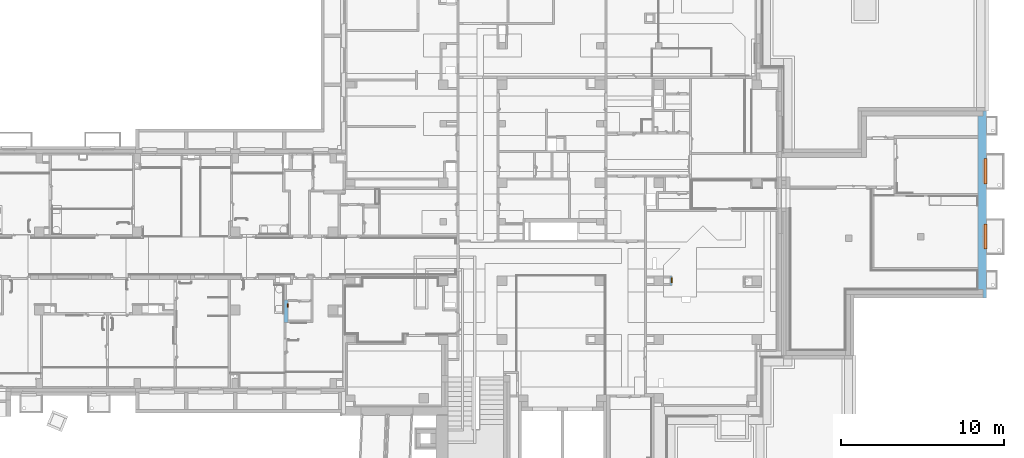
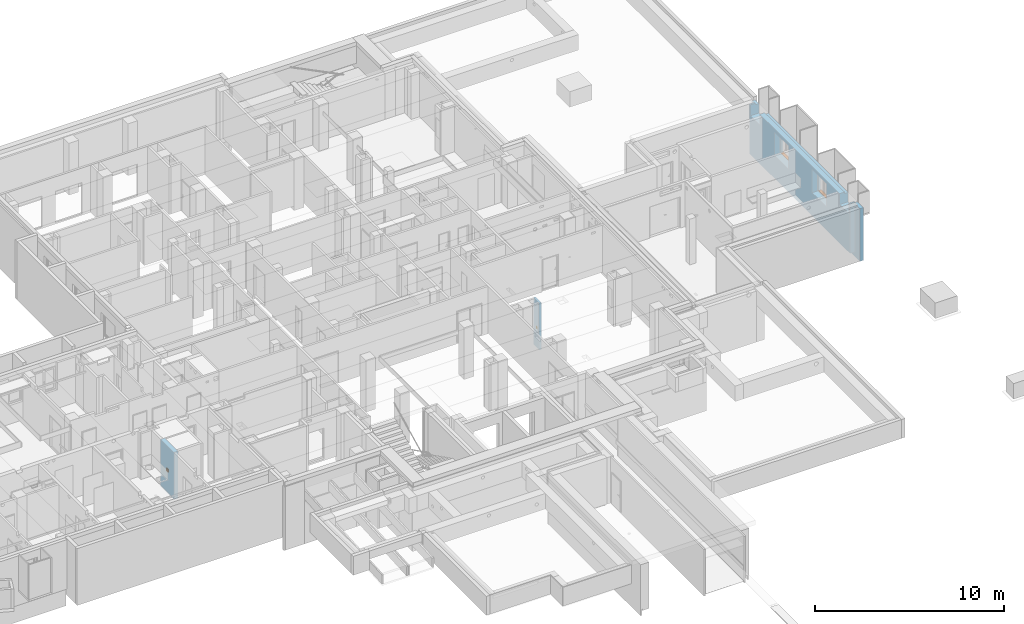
# One storey, part 74 of 84: 3 proxies, 1 window, 6 openings, plus 3 elements that do not belong to this part.
"""IFC4 building model written with IfcOpenShell, lengths in metres."""

import ifcopenshell
import ifcopenshell.guid

model = None  # the IFC model being written
_history = None  # IfcOwnerHistory: only IFC2X3 demands one
_inside = {}  # id of a spatial element -> (the spatial element, [elements in it])
_under = {}  # id of a project, library or spatial element -> (it, [spatial elements below it])
_declared = {}  # id of a project -> (the project, [libraries it declares])
_typed = {}  # id of a type object -> (the type object, [elements of that type])
_made_of = {}  # id of a material, layer set ... -> (it, [elements and type objects made of it])


def new_model(schema):
    """Start an empty IFC model of exactly this schema.

    Asked for "IFC4X3", IfcOpenShell would pick the latest addendum, in which some entities
    have other attributes; the version numbers below select the first issue.
    IFC2X3 requires an IfcOwnerHistory on every rooted entity: one is made here for all.
    """
    global model, _history
    if schema == "IFC4X3":
        model = ifcopenshell.file(schema_version=(4, 3, 0, 0))
    else:
        model = ifcopenshell.file(schema=schema)
    _inside.clear()
    _under.clear()
    _declared.clear()
    _typed.clear()
    _made_of.clear()
    _history = None
    if model.schema == "IFC2X3":
        org = make("IfcOrganization", Name="unknown")
        user = make(
            "IfcPersonAndOrganization",
            ThePerson=make("IfcPerson", FamilyName="unknown"),
            TheOrganization=org,
        )
        app = make(
            "IfcApplication",
            ApplicationDeveloper=org,
            Version="unknown",
            ApplicationFullName="unknown",
            ApplicationIdentifier="unknown",
        )
        _history = make(
            "IfcOwnerHistory",
            OwningUser=user,
            OwningApplication=app,
            ChangeAction="ADDED",
            CreationDate=0,
        )
    return model


def make(cls, **values):
    """One entity of the class cls with the attributes given. An attribute that is None is left unset."""
    return model.create_entity(
        cls, **{name: value for name, value in values.items() if value is not None}
    )


def entity(cls, *values):
    """Any entity or typed value of the class cls, its attributes in the order of the schema. None: left unset."""
    e = model.create_entity(cls)
    for i, value in enumerate(values):
        if value is not None:
            e[i] = value
    return e


def rooted(cls, **values):
    """An entity with a GlobalId (a new one), such as an element, a storey or a relation."""
    return make(cls, GlobalId=ifcopenshell.guid.new(), OwnerHistory=_history, **values)


def si_unit(unit_type, name, prefix=None):
    """IfcSIUnit, for example si_unit("LENGTHUNIT", "METRE", prefix="MILLI")."""
    return make("IfcSIUnit", UnitType=unit_type, Prefix=prefix, Name=name)


def converted_unit(unit_type, name, factor, base, dimensions=None, offset=None):
    """IfcConversionBasedUnit, such as the inch: factor (a typed value) times the base unit."""
    return make(
        "IfcConversionBasedUnit"
        if offset is None
        else "IfcConversionBasedUnitWithOffset",
        ConversionOffset=offset,
        Dimensions=None
        if dimensions is None
        else entity("IfcDimensionalExponents", *dimensions),
        UnitType=unit_type,
        Name=name,
        ConversionFactor=make(
            "IfcMeasureWithUnit", ValueComponent=factor, UnitComponent=base
        ),
    )


def derived_unit(unit_type, elements):
    """IfcDerivedUnit: a product of units, each with its exponent."""
    return make(
        "IfcDerivedUnit",
        Elements=[
            make("IfcDerivedUnitElement", Unit=unit, Exponent=power)
            for unit, power in elements
        ],
        UnitType=unit_type,
    )


def assignment(units):
    """IfcUnitAssignment: the units of a project."""
    return None if units is None else make("IfcUnitAssignment", Units=units)


def point(xyz):
    """IfcCartesianPoint."""
    return None if xyz is None else make("IfcCartesianPoint", Coordinates=xyz)


def direction(xyz):
    """IfcDirection."""
    return None if xyz is None else make("IfcDirection", DirectionRatios=xyz)


def frame(location, z_axis=None, x_axis=None):
    """IfcAxis2Placement3D, a coordinate frame: its origin and axes. An axis left out is left unset."""
    return make(
        "IfcAxis2Placement3D",
        Location=point(location),
        Axis=direction(z_axis),
        RefDirection=direction(x_axis),
    )


def frame_2d(location, x_axis=None):
    """IfcAxis2Placement2D, a coordinate frame in the plane: its origin and x axis."""
    return make(
        "IfcAxis2Placement2D", Location=point(location), RefDirection=direction(x_axis)
    )


def origin():
    """The frame at (0, 0, 0) with its axes left unset."""
    return frame((0.0, 0.0, 0.0))


def origin_with_axes():
    """The frame at (0, 0, 0) with the z axis (0, 0, 1) and the x axis (1, 0, 0) written out."""
    return frame((0.0, 0.0, 0.0), z_axis=(0.0, 0.0, 1.0), x_axis=(1.0, 0.0, 0.0))


def place(relative_to, where):
    """IfcLocalPlacement: puts the frame where relative to a parent placement (None: the world)."""
    return make(
        "IfcLocalPlacement", PlacementRelTo=relative_to, RelativePlacement=where
    )


def context(
    kind, dimensions, precision=None, world=None, true_north=None, identifier=None
):
    """IfcGeometricRepresentationContext, for example the 3D "Model" context."""
    return make(
        "IfcGeometricRepresentationContext",
        ContextIdentifier=identifier,
        ContextType=kind,
        CoordinateSpaceDimension=dimensions,
        Precision=precision,
        WorldCoordinateSystem=world,
        TrueNorth=true_north,
    )


def subcontext(parent, identifier, kind, view, scale=None):
    """IfcGeometricRepresentationSubContext, for example "Body" below "Model"."""
    return make(
        "IfcGeometricRepresentationSubContext",
        ContextIdentifier=identifier,
        ContextType=kind,
        ParentContext=parent,
        TargetScale=scale,
        TargetView=view,
    )


def project(units=None, contexts=None):
    """IfcProject with its units and contexts."""
    return rooted(
        "IfcProject",
        Name="project",
        RepresentationContexts=contexts,
        UnitsInContext=assignment(units),
    )


def spatial(cls, under=None, at=None, **own):
    """A site, building, storey or space (cls), placed at a placement, below another one or the project."""
    s = rooted(cls, ObjectPlacement=at, **own)
    if under is not None:
        _under.setdefault(under.id(), (under, []))[1].append(s)
    return s


def polyline(points):
    """IfcPolyline through the points."""
    return make("IfcPolyline", Points=[point(p) for p in points])


def profile(cls, at=None, kind="AREA", **sizes):
    """A parametric profile (cls). Its sizes go by their IFC names, for example OverallWidth=200.0."""
    return make(cls, ProfileType=kind, Position=at, **sizes)


def rectangle(**sizes):
    """IfcRectangleProfileDef."""
    return profile("IfcRectangleProfileDef", **sizes)


def outline(outer, holes=None, kind="AREA"):
    """IfcArbitraryClosedProfileDef: a profile drawn as a closed curve; with holes, ...WithVoids."""
    if holes is None:
        return make("IfcArbitraryClosedProfileDef", ProfileType=kind, OuterCurve=outer)
    return make(
        "IfcArbitraryProfileDefWithVoids",
        ProfileType=kind,
        OuterCurve=outer,
        InnerCurves=holes,
    )


def extrude(swept, where, along, depth):
    """IfcExtrudedAreaSolid: the profile swept, set in the frame where, extruded along a direction by depth."""
    return make(
        "IfcExtrudedAreaSolid",
        SweptArea=swept,
        Position=where,
        ExtrudedDirection=direction(along),
        Depth=depth,
    )


def clip(a, b, op="DIFFERENCE"):
    """IfcBooleanClippingResult: the solid a cut by the half space b."""
    return make(
        "IfcBooleanClippingResult", Operator=op, FirstOperand=a, SecondOperand=b
    )


def bounded_halfspace(plane, agree, where, boundary):
    """IfcPolygonalBoundedHalfSpace: a half space limited to a polygon's prism."""
    return make(
        "IfcPolygonalBoundedHalfSpace",
        BaseSurface=make("IfcPlane", Position=plane),
        AgreementFlag=agree,
        Position=where,
        PolygonalBoundary=boundary,
    )


def faces_of(points, faces, orient=None, outer=None):
    """IfcFace entities. A face is a list of loops; a loop is a list of indices into points, from 0.

    orient and outer hold one flag for each loop. By default every Orientation is true, the
    first loop of a face is its IfcFaceOuterBound and the others are IfcFaceBound.
    """
    made = []
    for i, loops in enumerate(faces):
        bounds = []
        for j, loop in enumerate(loops):
            is_outer = j == 0 if outer is None else outer[i][j]
            bounds.append(
                make(
                    "IfcFaceOuterBound" if is_outer else "IfcFaceBound",
                    Bound=make("IfcPolyLoop", Polygon=[points[k] for k in loop]),
                    Orientation=True if orient is None else orient[i][j],
                )
            )
        made.append(make("IfcFace", Bounds=bounds))
    return made


def faceted_brep(points, faces, orient=None, outer=None, voids=None):
    """IfcFacetedBrep: a solid bounded by flat faces; with voids (closed shells), ...WithVoids."""
    shared = [point(p) for p in points]
    hull = make("IfcClosedShell", CfsFaces=faces_of(shared, faces, orient, outer))
    if voids is None:
        return make("IfcFacetedBrep", Outer=hull)
    return make(
        "IfcFacetedBrepWithVoids",
        Outer=hull,
        Voids=[
            make(cls, CfsFaces=faces_of(shared, fs, o, b)) for cls, fs, o, b in voids
        ],
    )


def shape(context_of_items, identifier, shape_type, items):
    """IfcShapeRepresentation: the items that make up one representation, for example the "Body"."""
    return make(
        "IfcShapeRepresentation",
        ContextOfItems=context_of_items,
        RepresentationIdentifier=identifier,
        RepresentationType=shape_type,
        Items=items,
    )


def source(mapping_origin, context_of_items, identifier, shape_type, items):
    """IfcRepresentationMap: a shape defined once, which mapped items show again and again."""
    return make(
        "IfcRepresentationMap",
        MappingOrigin=mapping_origin,
        MappedRepresentation=shape(context_of_items, identifier, shape_type, items),
    )


def transform(
    local_origin,
    x_axis=None,
    y_axis=None,
    z_axis=None,
    scale=None,
    scale2=None,
    scale3=None,
    uniform=True,
):
    """IfcCartesianTransformationOperator3D, or its non-uniform kind. x_axis, y_axis, z_axis: its Axis1, 2, 3."""
    if uniform:
        return make(
            "IfcCartesianTransformationOperator3D",
            Axis1=direction(x_axis),
            Axis2=direction(y_axis),
            LocalOrigin=point(local_origin),
            Scale=scale,
            Axis3=direction(z_axis),
        )
    return make(
        "IfcCartesianTransformationOperator3DnonUniform",
        Axis1=direction(x_axis),
        Axis2=direction(y_axis),
        LocalOrigin=point(local_origin),
        Scale=scale,
        Axis3=direction(z_axis),
        Scale2=scale2,
        Scale3=scale3,
    )


def mapped(mapping_source, mapping_target):
    """IfcMappedItem: shows the shape of a source again, moved by a transform."""
    return make(
        "IfcMappedItem", MappingSource=mapping_source, MappingTarget=mapping_target
    )


def material(Name=None, Category=None):
    """IfcMaterial."""
    return make("IfcMaterial", Name=Name, Category=Category)


def layer(
    of_material, thickness, ventilated=None, Name=None, Category=None, Priority=None
):
    """IfcMaterialLayer: one layer of a wall or slab, of a material (None: an air gap)."""
    return make(
        "IfcMaterialLayer",
        Material=of_material,
        LayerThickness=thickness,
        IsVentilated=ventilated,
        Name=Name,
        Category=Category,
        Priority=Priority,
    )


def layer_set(layers, Name=None):
    """IfcMaterialLayerSet."""
    return make("IfcMaterialLayerSet", MaterialLayers=layers, LayerSetName=Name)


def layer_usage(for_layer_set, set_direction, sense, offset, extent=None):
    """IfcMaterialLayerSetUsage: how a layer set lies in its element."""
    return make(
        "IfcMaterialLayerSetUsage",
        ForLayerSet=for_layer_set,
        LayerSetDirection=set_direction,
        DirectionSense=sense,
        OffsetFromReferenceLine=offset,
        ReferenceExtent=extent,
    )


def made_of(thing, what):
    """Note that an element or type object is made of a material, layer set ...; save() writes the relation."""
    if what is not None:
        _made_of.setdefault(what.id(), (what, []))[1].append(thing)
    return thing


def element(
    cls,
    number,
    at=None,
    inside=None,
    cuts=None,
    type_object=None,
    material=None,
    context=None,
    identifier="Body",
    shape_type=None,
    held_by="IfcProductDefinitionShape",
    body=None,
    shapes=None,
    **own,
):
    """One element of the class cls, such as IfcWall. Its Tag is "e" and its number.

    at: its placement. inside: the storey or other place that contains it. cuts: it is an
    opening in that element (IfcRelVoidsElement). A single representation is given by context,
    identifier, shape_type and body (its items); several are given by shapes. held_by: the class
    of the entity that holds the representations. save() writes the other relations.
    """
    e = rooted(cls, Tag="e%d" % number, ObjectPlacement=at, **own)
    if body is not None:
        shapes = [shape(context, identifier, shape_type, body)]
    if shapes is not None:
        e.Representation = make(held_by, Representations=shapes)
    if inside is not None:
        _inside.setdefault(inside.id(), (inside, []))[1].append(e)
    if cuts is not None:
        rooted(
            "IfcRelVoidsElement", RelatingBuildingElement=cuts, RelatedOpeningElement=e
        )
    if type_object is not None:
        _typed.setdefault(type_object.id(), (type_object, []))[1].append(e)
    return made_of(e, material)


def fill(opening, filler):
    """IfcRelFillsElement: the door or window that sits in an opening."""
    return rooted(
        "IfcRelFillsElement",
        RelatingOpeningElement=opening,
        RelatedBuildingElement=filler,
    )


def aggregate(whole, parts):
    """IfcRelAggregates: a whole, such as a stair, and the parts it consists of."""
    return rooted("IfcRelAggregates", RelatingObject=whole, RelatedObjects=parts)


def save(model, path):
    """Write the relations noted so far, then the file.

    IfcRelAggregates (storeys below a building ...), IfcRelContainedInSpatialStructure (elements
    in a storey), IfcRelDefinesByType, IfcRelAssociatesMaterial and IfcRelDeclares: one each for
    every whole, place, type object, material and project.
    """
    for whole, parts in _under.values():
        aggregate(whole, parts)
    for where, things in _inside.values():
        rooted(
            "IfcRelContainedInSpatialStructure",
            RelatedElements=things,
            RelatingStructure=where,
        )
    for kind, things in _typed.values():
        rooted("IfcRelDefinesByType", RelatedObjects=things, RelatingType=kind)
    for what, things in _made_of.values():
        rooted("IfcRelAssociatesMaterial", RelatedObjects=things, RelatingMaterial=what)
    for by, libraries in _declared.values():
        rooted("IfcRelDeclares", RelatingContext=by, RelatedDefinitions=libraries)
    model.write(path)


model = new_model("IFC4")

# Units and contexts
model_context = context("Model", 3, precision=1e-05, world=origin())
body_context = subcontext(model_context, "Body", "Model", "MODEL_VIEW")
ifc_project = project(units=[si_unit("LENGTHUNIT", "METRE"), si_unit("AREAUNIT", "SQUARE_METRE"), si_unit("VOLUMEUNIT", "CUBIC_METRE"), si_unit("MASSUNIT", "GRAM", prefix="KILO"), converted_unit("PLANEANGLEUNIT", "DEGREE", entity("IfcPlaneAngleMeasure", 0.0174532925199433), si_unit("PLANEANGLEUNIT", "RADIAN"), dimensions=[0, 0, 0, 0, 0, 0, 0]), derived_unit("THERMALTRANSMITTANCEUNIT", [(si_unit("POWERUNIT", "WATT"), 1), (si_unit("THERMODYNAMICTEMPERATUREUNIT", "KELVIN"), -1), (si_unit("LENGTHUNIT", "METRE"), -2)]), derived_unit("VOLUMETRICFLOWRATEUNIT", [(si_unit("LENGTHUNIT", "METRE"), 3), (converted_unit("TIMEUNIT", "hour", entity("IfcTimeMeasure", 3600.0), si_unit("TIMEUNIT", "SECOND"), dimensions=[0, 0, 1, 0, 0, 0, 0]), -1), (si_unit("LENGTHUNIT", "METRE"), -1)])], contexts=[model_context])

# Site, building, storey
site_placement = place(None, origin())
site = spatial("IfcSite", under=ifc_project, at=site_placement, Name="3. ASŘ", CompositionType="ELEMENT")
building_placement = place(site_placement, origin())
building = spatial("IfcBuilding", under=site, at=building_placement, Name="Pavilon C", CompositionType="ELEMENT")
storey_placement = place(building_placement, frame((0.0, 0.0, -3.3)))
storey = spatial("IfcBuildingStorey", under=building, at=storey_placement, Name="Půdorys 1.PP", CompositionType="ELEMENT", Elevation=-3.3)

# Wall, opening, window
ifc_material_1 = material(Name="ZDIVO Z CDm")
ifc_layer_1 = layer(ifc_material_1, 0.125)
ifc_layer_set_1 = layer_set([ifc_layer_1])
ifc_layer_usage_1 = layer_usage(ifc_layer_set_1, "AXIS2", "POSITIVE", 0.0)
wall_1_placement = place(storey_placement, frame((44.65, 7.49999999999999, -0.1), z_axis=(0.0, 0.0, 1.0), x_axis=(0.0, -1.0, 0.0)))
wall_1 = element("IfcWall", 1, at=wall_1_placement, inside=storey, material=ifc_layer_usage_1, Name="ZDIVO Z CDm", context=body_context, shape_type="SweptSolid", body=[
    extrude(rectangle(XDim=0.6, YDim=0.125, at=frame_2d((0.3, 0.0625), x_axis=(1.0, 0.0))), origin_with_axes(), (0.0, 0.0, 1.0), 3.05),
])
opening_1_placement = place(wall_1_placement, frame((0.425, 0.125, 1.1), z_axis=(0.0, -1.0, 0.0), x_axis=(0.0, 0.0, 1.0)))
opening_1 = element("IfcOpeningElement", 2, at=opening_1_placement, cuts=wall_1, Name="Okenní otvor", ObjectType="Opening", context=body_context, shape_type="SweptSolid", body=[
    extrude(outline(polyline([(0.0, 0.3), (0.3, 0.3), (0.3, 0.0), (0.0, 0.0), (0.0, 0.3)])), origin_with_axes(), (0.0, 0.0, 1.0), 0.125),
])
shared_shape_1 = source(origin_with_axes(), body_context, "Body", "Brep", [
    faceted_brep([(0.0, 0.06, 0.3), (0.0, 0.06, 4.91096680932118e-19), (0.02, 0.06, 4.91096680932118e-19), (0.02, 0.06, 0.3), (0.0, 0.01, 6.61433067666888e-18), (0.0, 0.01, 0.3), (0.02, 0.01, 0.3), (0.02, 0.01, 6.61433067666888e-18)], [[[0, 1, 2, 3]], [[4, 5, 6, 7]], [[1, 0, 5, 4]], [[2, 1, 4, 7]], [[3, 2, 7, 6]], [[0, 3, 6, 5]]], orient=[[False], [False], [False], [False], [False], [False]]),
    faceted_brep([(0.28, 0.06, 0.3), (0.28, 0.06, 4.91096680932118e-19), (0.3, 0.06, 4.91096680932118e-19), (0.3, 0.06, 0.3), (0.28, 0.01, 6.61433067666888e-18), (0.28, 0.01, 0.3), (0.3, 0.01, 0.3), (0.3, 0.01, 6.61433067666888e-18)], [[[0, 1, 2, 3]], [[4, 5, 6, 7]], [[1, 0, 5, 4]], [[2, 1, 4, 7]], [[3, 2, 7, 6]], [[0, 3, 6, 5]]], orient=[[False], [False], [False], [False], [False], [False]]),
    faceted_brep([(0.02, 0.06, 0.02), (0.02, 0.06, 4.91096680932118e-19), (0.28, 0.06, 4.91096680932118e-19), (0.28, 0.06, 0.02), (0.02, 0.01, 6.61433067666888e-18), (0.02, 0.01, 0.02), (0.28, 0.01, 0.02), (0.28, 0.01, 6.61433067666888e-18)], [[[0, 1, 2, 3]], [[4, 5, 6, 7]], [[1, 0, 5, 4]], [[2, 1, 4, 7]], [[3, 2, 7, 6]], [[0, 3, 6, 5]]], orient=[[False], [False], [False], [False], [False], [False]]),
    faceted_brep([(0.02, 0.06, 0.3), (0.02, 0.06, 0.28), (0.28, 0.06, 0.28), (0.28, 0.06, 0.3), (0.02, 0.01, 0.28), (0.02, 0.01, 0.3), (0.28, 0.01, 0.3), (0.28, 0.01, 0.28)], [[[0, 1, 2, 3]], [[4, 5, 6, 7]], [[1, 0, 5, 4]], [[2, 1, 4, 7]], [[3, 2, 7, 6]], [[0, 3, 6, 5]]], orient=[[False], [False], [False], [False], [False], [False]]),
    faceted_brep([(0.02, 0.01, 0.28), (0.02, 0.01, 0.02), (0.28, 0.01, 0.02), (0.28, 0.01, 0.28), (0.02, 0.0, 0.02), (0.02, 3.19744231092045e-17, 0.28), (0.28, 3.19744231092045e-17, 0.28), (0.28, 0.0, 0.02)], [[[0, 1, 2, 3]], [[4, 5, 6, 7]], [[1, 0, 5, 4]], [[2, 1, 4, 7]], [[3, 2, 7, 6]], [[0, 3, 6, 5]]], orient=[[False], [False], [False], [False], [False], [False]]),
])
window_placement = place(opening_1_placement, frame((0.0, -1.81898940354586e-15, -0.00999999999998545), z_axis=(1.0, 0.0, 0.0), x_axis=(0.0, 1.0, -1.22464679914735e-16)))
window = element("IfcWindow", 3, at=window_placement, inside=storey, Name="O01", OverallHeight=0.3, OverallWidth=0.3, PartitioningType="USERDEFINED", PredefinedType="WINDOW", context=body_context, shape_type="MappedRepresentation", body=[
    mapped(shared_shape_1, transform((0.0, 0.0, 0.0), x_axis=(1.0, 0.0, 0.0), y_axis=(0.0, 1.0, 0.0), z_axis=(0.0, 0.0, 1.0), scale=1.0)),
])
fill(opening_1, window)

# Wall, openings, proxies
ifc_material_2 = material(Name="ZELEZOBETONOVÁ KCE")
ifc_layer_2 = layer(ifc_material_2, 0.3)
ifc_material_3 = material(Name="PERIMETR")
ifc_layer_3 = layer(ifc_material_3, 0.22)
ifc_layer_set_2 = layer_set([ifc_layer_2, ifc_layer_3])
ifc_layer_usage_2 = layer_usage(ifc_layer_set_2, "AXIS2", "POSITIVE", 0.0)
wall_2_placement = place(storey_placement, frame((63.5, 17.3, -0.6), z_axis=(0.0, 0.0, 1.0), x_axis=(0.0, -1.0, 0.0)))
wall_2 = element("IfcWall", 4, at=wall_2_placement, inside=storey, material=ifc_layer_usage_2, Name="ZELEZOBETONOVÁ KCE", context=body_context, shape_type="Clipping", body=[
    clip(clip(extrude(outline(polyline([(-11.17, 0.0), (-0.520000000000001, 0.0), (-0.520000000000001, 0.3), (0.0, 0.3), (0.0, 0.52), (-11.47, 0.52), (-11.47, 0.3), (-11.17, 0.3), (-11.17, 0.0)])), frame((11.17, 0.0, 0.0), z_axis=(0.0, 0.0, 1.0), x_axis=(1.0, 0.0, 0.0)), (0.0, 0.0, 1.0), 3.5), bounded_halfspace(frame((5.325, 0.15, 0.3), z_axis=(0.0, 0.0, 1.0), x_axis=(0.0, -1.0, 0.0)), True, origin_with_axes(), polyline([(0.0, 0.3), (0.0, 0.0), (10.65, 0.0), (10.65, 0.3), (0.0, 0.3)]))), bounded_halfspace(frame((5.39833333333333, 0.373333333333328, 3.4), z_axis=(0.0, 0.0, -1.0), x_axis=(1.0, -1.39922261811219e-14, 0.0)), True, origin_with_axes(), polyline([(10.65, 0.3), (11.17, 0.299999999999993), (11.17, 0.519999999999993), (-0.3, 0.519999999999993), (-0.3, 0.299999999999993), (0.0, 0.3), (10.65, 0.3)]))),
])
opening_2_placement = place(wall_2_placement, frame((8.15, 0.3, 1.8), z_axis=(0.0, -1.0, 0.0), x_axis=(0.0, 0.0, 1.0)))
opening_2 = element("IfcOpeningElement", 5, at=opening_2_placement, cuts=wall_2, Name="Okenní otvor", ObjectType="Opening", context=body_context, shape_type="SweptSolid", body=[
    extrude(outline(polyline([(0.0, 1.5), (1.5, 1.5), (1.5, 0.0), (0.0, 0.0), (0.0, 1.5)])), origin_with_axes(), (0.0, 0.0, 1.0), 0.3),
    extrude(outline(polyline([(0.0, 1.5), (1.5, 1.5), (1.5, 0.0), (0.0, 0.0), (0.0, 1.5)])), frame((0.0, 0.0, -0.22), z_axis=(0.0, 0.0, 1.0), x_axis=(1.0, 0.0, 0.0)), (0.0, 0.0, 1.0), 0.22),
])
opening_3_placement = place(wall_2_placement, frame((4.15, 0.3, 1.8), z_axis=(0.0, -1.0, 0.0), x_axis=(0.0, 0.0, 1.0)))
opening_3 = element("IfcOpeningElement", 6, at=opening_3_placement, cuts=wall_2, Name="Okenní otvor", ObjectType="Opening", context=body_context, shape_type="SweptSolid", body=[
    extrude(outline(polyline([(0.0, 1.5), (1.5, 1.5), (1.5, 0.0), (0.0, 0.0), (0.0, 1.5)])), origin_with_axes(), (0.0, 0.0, 1.0), 0.3),
    extrude(outline(polyline([(0.0, 1.5), (1.5, 1.5), (1.5, 0.0), (0.0, 0.0), (0.0, 1.5)])), frame((0.0, 0.0, -0.22), z_axis=(0.0, 0.0, 1.0), x_axis=(1.0, 0.0, 0.0)), (0.0, 0.0, 1.0), 0.22),
])
opening_4_placement = place(wall_2_placement, frame((10.55, 0.52, 2.8), z_axis=(0.0, -1.0, 0.0), x_axis=(0.0, 0.0, 1.0)))
element("IfcOpeningElement", 7, at=opening_4_placement, cuts=wall_2, Name="VZT", ObjectType="Opening", context=body_context, shape_type="SweptSolid", body=[
    extrude(outline(polyline([(0.0, 1.0), (0.7, 1.0), (0.7, 0.0), (0.0, 0.0), (0.0, 1.0)])), origin_with_axes(), (0.0, 0.0, 1.0), 0.22),
    extrude(outline(polyline([(0.0, 1.0), (0.7, 1.0), (0.7, 0.0), (0.0, 0.0), (0.0, 1.0)])), frame((0.0, 0.0, 0.22), z_axis=(0.0, 0.0, 1.0), x_axis=(1.0, 0.0, 0.0)), (0.0, 0.0, 1.0), 0.3),
])
opening_5_placement = place(wall_2_placement, frame((1.09999999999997, 0.52, 2.8), z_axis=(0.0, -1.0, 0.0), x_axis=(0.0, 0.0, 1.0)))
element("IfcOpeningElement", 8, at=opening_5_placement, cuts=wall_2, Name="VZT", ObjectType="Opening", context=body_context, shape_type="SweptSolid", body=[
    extrude(outline(polyline([(0.0, 0.999999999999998), (0.7, 0.999999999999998), (0.7, 0.0), (0.0, 0.0), (0.0, 0.999999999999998)])), origin_with_axes(), (0.0, 0.0, 1.0), 0.22),
    extrude(outline(polyline([(0.0, 0.999999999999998), (0.7, 0.999999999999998), (0.7, 0.0), (0.0, 0.0), (0.0, 0.999999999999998)])), frame((0.0, 0.0, 0.22), z_axis=(0.0, 0.0, 1.0), x_axis=(1.0, 0.0, 0.0)), (0.0, 0.0, 1.0), 0.3),
])
ifc_material_4 = material(Name="HLINÍKOVÝ PLECH ELOXOVANÝ")
shared_shape_2 = source(origin_with_axes(), body_context, "Body", "Brep", [
    faceted_brep([(-3.63797880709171e-15, -0.219999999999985, 0.0), (-3.63797880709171e-15, -0.0819999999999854, 0.0), (-3.63797880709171e-15, -0.0819999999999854, 0.005), (-3.63797880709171e-15, -0.219999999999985, 0.005), (1.5, -0.219999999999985, 0.0), (1.5, -0.219999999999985, 0.005), (1.5, -0.0819999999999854, 0.005), (1.5, -0.0819999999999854, 0.0), (-0.0200000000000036, -0.219999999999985, 0.0), (-0.0200000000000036, -0.254999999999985, 0.0), (1.52, -0.254999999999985, 0.0), (1.52, -0.219999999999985, 0.0), (1.52, -0.219999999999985, 0.005), (1.52, -0.259999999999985, 0.005), (-0.0200000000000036, -0.259999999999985, 0.005), (-0.0200000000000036, -0.219999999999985, 0.005), (-0.0200000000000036, -0.259999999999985, -0.025), (-0.0200000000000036, -0.254999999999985, -0.025), (1.52, -0.254999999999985, -0.025), (1.52, -0.259999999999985, -0.025)], [[[0, 1, 2, 3]], [[4, 5, 6, 7]], [[1, 0, 8, 9, 10, 11, 4, 7]], [[2, 1, 7, 6]], [[3, 2, 6, 5, 12, 13, 14, 15]], [[8, 15, 14, 16, 17, 9]], [[11, 10, 18, 19, 13, 12]], [[15, 8, 0, 3]], [[5, 4, 11, 12]], [[16, 14, 13, 19]], [[17, 16, 19, 18]], [[9, 17, 18, 10]]], orient=[[False], [False], [False], [False], [False], [False], [False], [False], [False], [False], [False], [False]]),
    faceted_brep([(-0.0200000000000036, -0.219999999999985, 0.0), (-0.0200000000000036, -0.0819999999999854, 0.0), (-0.0200000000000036, -0.0819999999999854, 0.005), (-0.0200000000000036, -0.219999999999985, 0.005), (-3.63797880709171e-15, -0.219999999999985, 0.0), (-3.63797880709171e-15, -0.219999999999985, 0.005), (-3.63797880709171e-15, -0.0819999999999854, 0.005), (-3.63797880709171e-15, -0.0819999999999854, 0.0)], [[[0, 1, 2, 3]], [[4, 5, 6, 7]], [[1, 0, 4, 7]], [[2, 1, 7, 6]], [[3, 2, 6, 5]], [[0, 3, 5, 4]]], orient=[[False], [False], [False], [False], [False], [False]]),
    faceted_brep([(1.5, -0.219999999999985, 0.0), (1.5, -0.0819999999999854, 0.0), (1.5, -0.0819999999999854, 0.005), (1.5, -0.219999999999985, 0.005), (1.52, -0.219999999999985, 0.0), (1.52, -0.219999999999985, 0.005), (1.52, -0.0819999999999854, 0.005), (1.52, -0.0819999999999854, 0.0)], [[[0, 1, 2, 3]], [[4, 5, 6, 7]], [[1, 0, 4, 7]], [[2, 1, 7, 6]], [[3, 2, 6, 5]], [[0, 3, 5, 4]]], orient=[[False], [False], [False], [False], [False], [False]]),
])
proxy_1_placement = place(opening_2_placement, frame((0.0, 0.0, 0.0), z_axis=(1.0, 0.0, 0.0), x_axis=(0.0, 1.0, 0.0)))
proxy_1 = element("IfcBuildingElementProxy", 9, at=proxy_1_placement, inside=storey, material=ifc_material_4, Name="Parapet vnější", context=body_context, shape_type="MappedRepresentation", body=[
    mapped(shared_shape_2, transform((0.0, 0.0, 0.0), x_axis=(1.0, 0.0, 0.0), y_axis=(0.0, 1.0, 0.0), z_axis=(0.0, 0.0, 1.0), scale=1.0)),
])
fill(opening_2, proxy_1)
ifc_material_5 = material(Name="HLINÍKOVÝ PLECH ELOXOVANÝ")
shared_shape_3 = source(origin_with_axes(), body_context, "Body", "Brep", [
    faceted_brep([(-3.63797880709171e-15, -0.219999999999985, 0.0), (-3.63797880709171e-15, -0.0819999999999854, 0.0), (-3.63797880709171e-15, -0.0819999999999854, 0.005), (-3.63797880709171e-15, -0.219999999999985, 0.005), (1.5, -0.219999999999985, 0.0), (1.5, -0.219999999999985, 0.005), (1.5, -0.0819999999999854, 0.005), (1.5, -0.0819999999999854, 0.0), (-0.0200000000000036, -0.219999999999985, 0.0), (-0.0200000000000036, -0.254999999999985, 0.0), (1.52, -0.254999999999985, 0.0), (1.52, -0.219999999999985, 0.0), (1.52, -0.219999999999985, 0.005), (1.52, -0.259999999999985, 0.005), (-0.0200000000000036, -0.259999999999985, 0.005), (-0.0200000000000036, -0.219999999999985, 0.005), (-0.0200000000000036, -0.259999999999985, -0.025), (-0.0200000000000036, -0.254999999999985, -0.025), (1.52, -0.254999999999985, -0.025), (1.52, -0.259999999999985, -0.025)], [[[0, 1, 2, 3]], [[4, 5, 6, 7]], [[1, 0, 8, 9, 10, 11, 4, 7]], [[2, 1, 7, 6]], [[3, 2, 6, 5, 12, 13, 14, 15]], [[8, 15, 14, 16, 17, 9]], [[11, 10, 18, 19, 13, 12]], [[15, 8, 0, 3]], [[5, 4, 11, 12]], [[16, 14, 13, 19]], [[17, 16, 19, 18]], [[9, 17, 18, 10]]], orient=[[False], [False], [False], [False], [False], [False], [False], [False], [False], [False], [False], [False]]),
    faceted_brep([(-0.0200000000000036, -0.219999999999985, 0.0), (-0.0200000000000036, -0.0819999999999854, 0.0), (-0.0200000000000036, -0.0819999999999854, 0.005), (-0.0200000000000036, -0.219999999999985, 0.005), (-3.63797880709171e-15, -0.219999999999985, 0.0), (-3.63797880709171e-15, -0.219999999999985, 0.005), (-3.63797880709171e-15, -0.0819999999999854, 0.005), (-3.63797880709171e-15, -0.0819999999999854, 0.0)], [[[0, 1, 2, 3]], [[4, 5, 6, 7]], [[1, 0, 4, 7]], [[2, 1, 7, 6]], [[3, 2, 6, 5]], [[0, 3, 5, 4]]], orient=[[False], [False], [False], [False], [False], [False]]),
    faceted_brep([(1.5, -0.219999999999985, 0.0), (1.5, -0.0819999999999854, 0.0), (1.5, -0.0819999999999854, 0.005), (1.5, -0.219999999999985, 0.005), (1.52, -0.219999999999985, 0.0), (1.52, -0.219999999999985, 0.005), (1.52, -0.0819999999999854, 0.005), (1.52, -0.0819999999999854, 0.0)], [[[0, 1, 2, 3]], [[4, 5, 6, 7]], [[1, 0, 4, 7]], [[2, 1, 7, 6]], [[3, 2, 6, 5]], [[0, 3, 5, 4]]], orient=[[False], [False], [False], [False], [False], [False]]),
])
proxy_2_placement = place(opening_3_placement, frame((0.0, 0.0, 0.0), z_axis=(1.0, 0.0, 0.0), x_axis=(0.0, 1.0, 0.0)))
proxy_2 = element("IfcBuildingElementProxy", 10, at=proxy_2_placement, inside=storey, material=ifc_material_5, Name="Parapet vnější", context=body_context, shape_type="MappedRepresentation", body=[
    mapped(shared_shape_3, transform((0.0, 0.0, 0.0), x_axis=(1.0, 0.0, 0.0), y_axis=(0.0, 1.0, 0.0), z_axis=(0.0, 0.0, 1.0), scale=1.0)),
])
fill(opening_3, proxy_2)

# Wall, opening, proxy
ifc_material_6 = material(Name="SDK - 2 KCE + DVOJITÉ OPLÁŠTĚNÍ")
ifc_layer_4 = layer(ifc_material_6, 0.25)
ifc_layer_set_3 = layer_set([ifc_layer_4])
ifc_layer_usage_3 = layer_usage(ifc_layer_set_3, "AXIS2", "POSITIVE", 0.0)
wall_3_placement = place(storey_placement, frame((21.25, 4.625, -0.1), z_axis=(0.0, 0.0, 1.0), x_axis=(0.0, 1.0, 0.0)))
wall_3 = element("IfcWall", 11, at=wall_3_placement, inside=storey, material=ifc_layer_usage_3, Name="SDK - 2 KCE + DVOJITÉ OPLÁŠTĚNÍ", context=body_context, shape_type="SweptSolid", body=[
    extrude(rectangle(XDim=1.4, YDim=0.25, at=frame_2d((0.7, 0.125), x_axis=(1.0, 0.0))), origin_with_axes(), (0.0, 0.0, 1.0), 3.05),
])
opening_6_placement = place(wall_3_placement, frame((0.96, 0.0, 1.1), z_axis=(0.0, 1.0, 0.0), x_axis=(0.0, 0.0, 1.0)))
opening_6 = element("IfcOpeningElement", 12, at=opening_6_placement, cuts=wall_3, Name="Stěnová nika", ObjectType="Opening", context=body_context, shape_type="SweptSolid", body=[
    extrude(outline(polyline([(0.0, 0.2), (0.2, 0.2), (0.2, 0.0), (0.0, 0.0), (0.0, 0.2)])), origin_with_axes(), (0.0, 0.0, 1.0), 0.05),
])
shared_shape_4 = source(origin_with_axes(), body_context, "Body", "Brep", [
    faceted_brep([(0.199999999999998, 0.0500000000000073, 0.2), (0.179999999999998, 0.0500000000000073, 0.2), (0.179999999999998, 0.0500000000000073, 0.0), (0.199999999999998, 0.0500000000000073, 0.0), (0.199999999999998, 7.27595761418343e-15, 0.0), (0.179999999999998, 7.27595761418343e-15, 0.0), (0.179999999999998, 7.27595761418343e-15, 0.2), (0.199999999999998, 7.27595761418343e-15, 0.2)], [[[0, 1, 2, 3]], [[4, 5, 6, 7]], [[3, 4, 7, 0]], [[2, 5, 4, 3]], [[1, 6, 5, 2]], [[0, 7, 6, 1]]], orient=[[False], [False], [False], [False], [False], [False]]),
    faceted_brep([(0.0199999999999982, 0.0500000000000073, 0.2), (-1.81898940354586e-15, 0.0500000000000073, 0.2), (-1.81898940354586e-15, 0.0500000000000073, 0.0), (0.0199999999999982, 0.0500000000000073, 0.0), (0.0199999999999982, 7.27595761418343e-15, 0.0), (-1.81898940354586e-15, 7.27595761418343e-15, 0.0), (-1.81898940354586e-15, 7.27595761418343e-15, 0.2), (0.0199999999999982, 7.27595761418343e-15, 0.2)], [[[0, 1, 2, 3]], [[4, 5, 6, 7]], [[3, 4, 7, 0]], [[2, 5, 4, 3]], [[1, 6, 5, 2]], [[0, 7, 6, 1]]], orient=[[False], [False], [False], [False], [False], [False]]),
    faceted_brep([(0.179999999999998, 0.0500000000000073, 0.02), (0.0199999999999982, 0.0500000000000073, 0.02), (0.0199999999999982, 0.0500000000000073, 0.0), (0.179999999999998, 0.0500000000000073, 0.0), (0.179999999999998, 7.27595761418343e-15, 0.0), (0.0199999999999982, 7.27595761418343e-15, 0.0), (0.0199999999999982, 7.27595761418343e-15, 0.02), (0.179999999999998, 7.27595761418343e-15, 0.02)], [[[0, 1, 2, 3]], [[4, 5, 6, 7]], [[3, 4, 7, 0]], [[2, 5, 4, 3]], [[1, 6, 5, 2]], [[0, 7, 6, 1]]], orient=[[False], [False], [False], [False], [False], [False]]),
    faceted_brep([(0.179999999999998, 0.0500000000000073, 0.2), (0.0199999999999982, 0.0500000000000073, 0.2), (0.0199999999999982, 0.0500000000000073, 0.18), (0.179999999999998, 0.0500000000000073, 0.18), (0.179999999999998, 7.27595761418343e-15, 0.18), (0.0199999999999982, 7.27595761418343e-15, 0.18), (0.0199999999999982, 7.27595761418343e-15, 0.2), (0.179999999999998, 7.27595761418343e-15, 0.2)], [[[0, 1, 2, 3]], [[4, 5, 6, 7]], [[3, 4, 7, 0]], [[2, 5, 4, 3]], [[1, 6, 5, 2]], [[0, 7, 6, 1]]], orient=[[False], [False], [False], [False], [False], [False]]),
    faceted_brep([(0.179999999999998, 7.27595761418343e-15, 0.18), (0.0199999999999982, 7.27595761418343e-15, 0.18), (0.0199999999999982, 7.27595761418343e-15, 0.02), (0.179999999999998, 7.27595761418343e-15, 0.02), (0.179999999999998, -0.00999999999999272, 0.02), (0.0199999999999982, -0.00999999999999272, 0.02), (0.0199999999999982, -0.00999999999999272, 0.18), (0.179999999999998, -0.00999999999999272, 0.18)], [[[0, 1, 2, 3]], [[4, 5, 6, 7]], [[3, 4, 7, 0]], [[2, 5, 4, 3]], [[1, 6, 5, 2]], [[0, 7, 6, 1]]], orient=[[False], [False], [False], [False], [False], [False]]),
])
proxy_3_placement = place(opening_6_placement, frame((0.0, 0.0, 0.0), z_axis=(1.0, 0.0, 0.0), x_axis=(0.0, 1.0, 0.0)))
proxy_3 = element("IfcBuildingElementProxy", 13, at=proxy_3_placement, inside=storey, context=body_context, shape_type="MappedRepresentation", body=[
    mapped(shared_shape_4, transform((0.0, 0.0, 0.0), x_axis=(1.0, 0.0, 0.0), y_axis=(0.0, 1.0, 0.0), z_axis=(0.0, 0.0, 1.0), scale=1.0)),
])
fill(opening_6, proxy_3)

save(model, "model.ifc")
